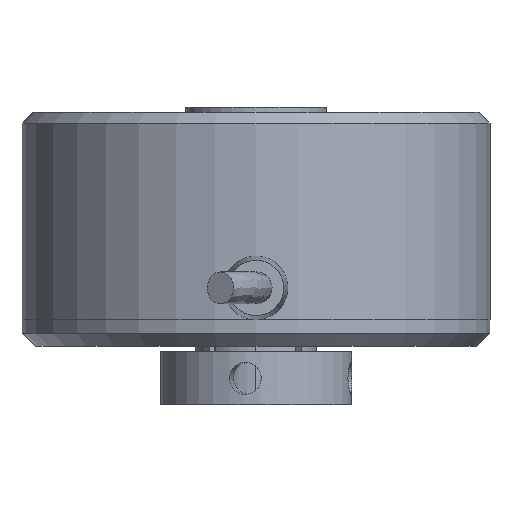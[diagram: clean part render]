
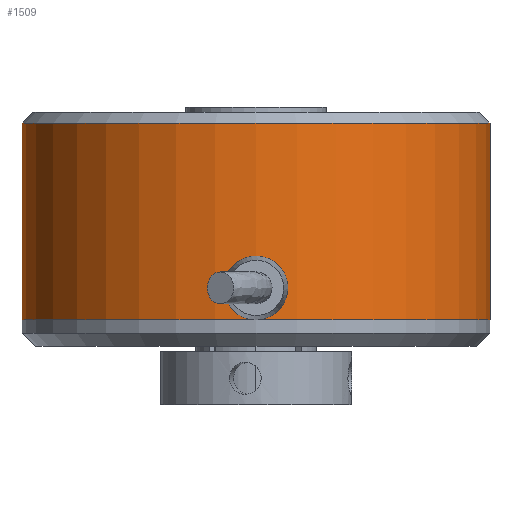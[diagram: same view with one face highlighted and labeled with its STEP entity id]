
A CAD part, front view. The second image highlights one B-rep face of the part: STEP entity #1509.
In plain terms, the highlighted cylindrical face has radius 22 mm (diameter 44 mm), a partial arc.
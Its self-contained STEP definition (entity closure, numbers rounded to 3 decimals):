
#48 = CYLINDRICAL_SURFACE ( 'NONE', #2471, 22. ) ;
#62 = CARTESIAN_POINT ( 'NONE',  ( 22., 0., 19.5 ) ) ;
#169 = CARTESIAN_POINT ( 'NONE',  ( 22., 0., 0. ) ) ;
#302 = FACE_OUTER_BOUND ( 'NONE', #1967, .T. ) ;
#454 = DIRECTION ( 'NONE',  ( 1., 0., 0. ) ) ;
#462 = CARTESIAN_POINT ( 'NONE',  ( 0., 0., 19.5 ) ) ;
#472 = LINE ( 'NONE', #62, #2385 ) ;
#480 = CARTESIAN_POINT ( 'NONE',  ( 0., 0., 0. ) ) ;
#592 = VERTEX_POINT ( 'NONE', #2571 ) ;
#650 = DIRECTION ( 'NONE',  ( 0., 0., -1. ) ) ;
#665 = ORIENTED_EDGE ( 'NONE', *, *, #2507, .T. ) ;
#680 = ORIENTED_EDGE ( 'NONE', *, *, #1490, .F. ) ;
#843 = DIRECTION ( 'NONE',  ( 0., 0., -1. ) ) ;
#972 = ORIENTED_EDGE ( 'NONE', *, *, #1044, .T. ) ;
#985 = CIRCLE ( 'NONE', #2510, 22. ) ;
#1044 = EDGE_CURVE ( 'NONE', #2364, #592, #985, .T. ) ;
#1057 = DIRECTION ( 'NONE',  ( 0., 0., 1. ) ) ;
#1101 = DIRECTION ( 'NONE',  ( 0., 0., -1. ) ) ;
#1158 = VECTOR ( 'NONE', #1547, 1000. ) ;
#1490 = EDGE_CURVE ( 'NONE', #2364, #2476, #472, .T. ) ;
#1509 = ADVANCED_FACE ( 'NONE', ( #302 ), #48, .T. ) ;
#1547 = DIRECTION ( 'NONE',  ( 0., 0., -1. ) ) ;
#1575 = CARTESIAN_POINT ( 'NONE',  ( -22., 0., 0. ) ) ;
#1794 = EDGE_CURVE ( 'NONE', #2538, #2476, #2041, .T. ) ;
#1967 = EDGE_LOOP ( 'NONE', ( #680, #972, #665, #2456 ) ) ;
#2002 = AXIS2_PLACEMENT_3D ( 'NONE', #480, #1057, #2264 ) ;
#2041 = CIRCLE ( 'NONE', #2002, 22. ) ;
#2187 = CARTESIAN_POINT ( 'NONE',  ( -22., 0., 19.5 ) ) ;
#2256 = CARTESIAN_POINT ( 'NONE',  ( 0., 0., 18.5 ) ) ;
#2264 = DIRECTION ( 'NONE',  ( 1., 0., 0. ) ) ;
#2285 = CARTESIAN_POINT ( 'NONE',  ( 22., 0., 18.5 ) ) ;
#2318 = DIRECTION ( 'NONE',  ( -1., 0., 0. ) ) ;
#2364 = VERTEX_POINT ( 'NONE', #2285 ) ;
#2385 = VECTOR ( 'NONE', #650, 1000. ) ;
#2456 = ORIENTED_EDGE ( 'NONE', *, *, #1794, .T. ) ;
#2471 = AXIS2_PLACEMENT_3D ( 'NONE', #462, #1101, #2318 ) ;
#2476 = VERTEX_POINT ( 'NONE', #169 ) ;
#2507 = EDGE_CURVE ( 'NONE', #592, #2538, #2590, .T. ) ;
#2510 = AXIS2_PLACEMENT_3D ( 'NONE', #2256, #843, #454 ) ;
#2538 = VERTEX_POINT ( 'NONE', #1575 ) ;
#2571 = CARTESIAN_POINT ( 'NONE',  ( -22., 0., 18.5 ) ) ;
#2590 = LINE ( 'NONE', #2187, #1158 ) ;
